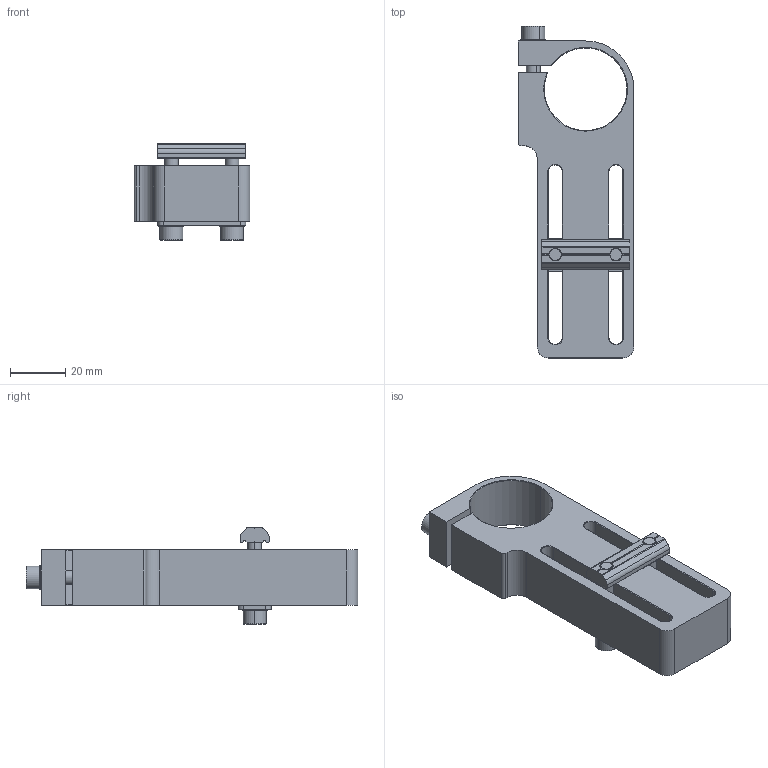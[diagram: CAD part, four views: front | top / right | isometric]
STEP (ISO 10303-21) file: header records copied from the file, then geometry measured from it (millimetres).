
FILE_DESCRIPTION (( 'STEP AP214' ), '1' );
FILE_NAME ('SMBE2-3060.STEP', '2019-11-01T01:33:56', ( '微软用户' ), ( '微软中国' ), 'SwSTEP 2.0', 'SolidWorks 2016', '' );
FILE_SCHEMA (( 'AUTOMOTIVE_DESIGN' ));
Length unit declared in the file: millimetre
Products named in the file (6): PTS-M5; PTN-M5P22; PTD-M5P22; PTC-M5L30; SMBE2-3060
Assembly tree (9 placements, depth 2):
  SMBE2-3060
    SMBE2-3060
    PTC-M5L30  x3
    PTD-M5P22
    PTN-M5P22
    PTS-M5  x3
Bounding box: 42 x 120.45 x 35 mm (x, y, z)
Volume: 60365 mm3; surface area: 24347.9 mm2
Topology: 9 solids, 9 shells, 673 faces, 1935 edges, 1275 vertices
Faces by surface type: plane 567, cylinder 70, cone 36
Entity records: 10351 total; most frequent: CARTESIAN_POINT 1953, DIRECTION 1745, ORIENTED_EDGE 1730, EDGE_CURVE 865, AXIS2_PLACEMENT_3D 599, VERTEX_POINT 567, VECTOR 547, LINE 547
